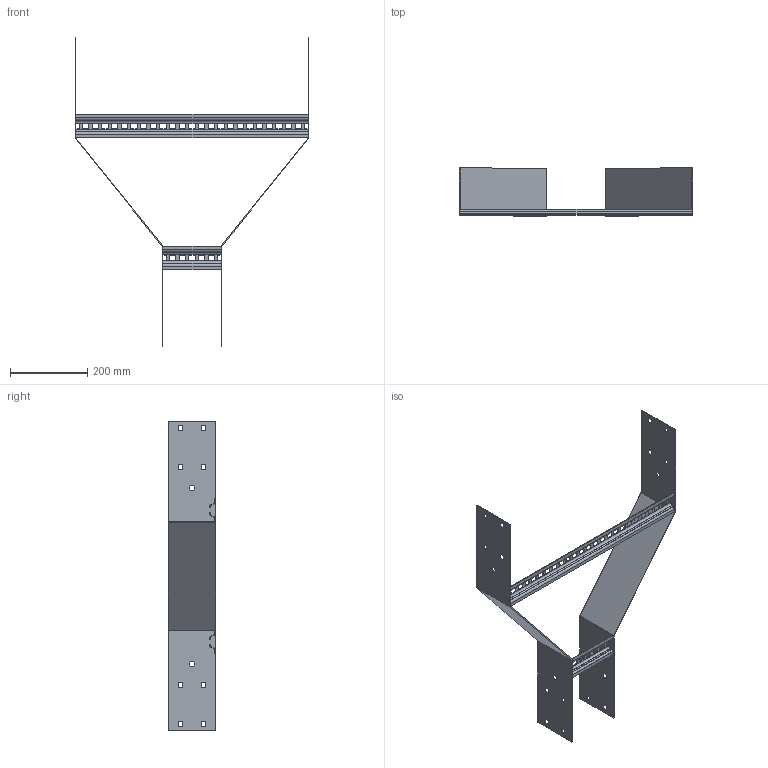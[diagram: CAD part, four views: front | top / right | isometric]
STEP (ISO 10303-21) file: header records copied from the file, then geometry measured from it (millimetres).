
FILE_DESCRIPTION (( 'STEP AP203' ), '1' );
FILE_NAME ('N3 SR 600150.STEP', '2022-09-19T05:42:50', ( '' ), ( '' ), 'SwSTEP 2.0', 'SolidWorks 2021', '' );
FILE_SCHEMA (( 'CONFIG_CONTROL_DESIGN' ));
Length unit declared in the file: millimetre
Products named in the file (4): Ladder Rung_Ladder Rung -  150mm; N3 Reducer side plate_SR150x600; Ladder Rung_Ladder Rung -  600mm; N3 SR 600150
Assembly tree (4 placements, depth 2):
  N3 SR 600150
    N3 Reducer side plate_SR150x600  x2
    Ladder Rung_Ladder Rung -  150mm
    Ladder Rung_Ladder Rung -  600mm
Bounding box: 604 x 124 x 800 mm (x, y, z)
Volume: 510224.8 mm3; surface area: 545721.9 mm2
Topology: 4 solids, 4 shells, 320 faces, 840 edges, 528 vertices
Faces by surface type: plane 288, cylinder 32
Entity records: 8438 total; most frequent: CARTESIAN_POINT 1389, ORIENTED_EDGE 1376, DIRECTION 1274, EDGE_CURVE 688, LINE 640, VECTOR 640, VERTEX_POINT 432, EDGE_LOOP 338
